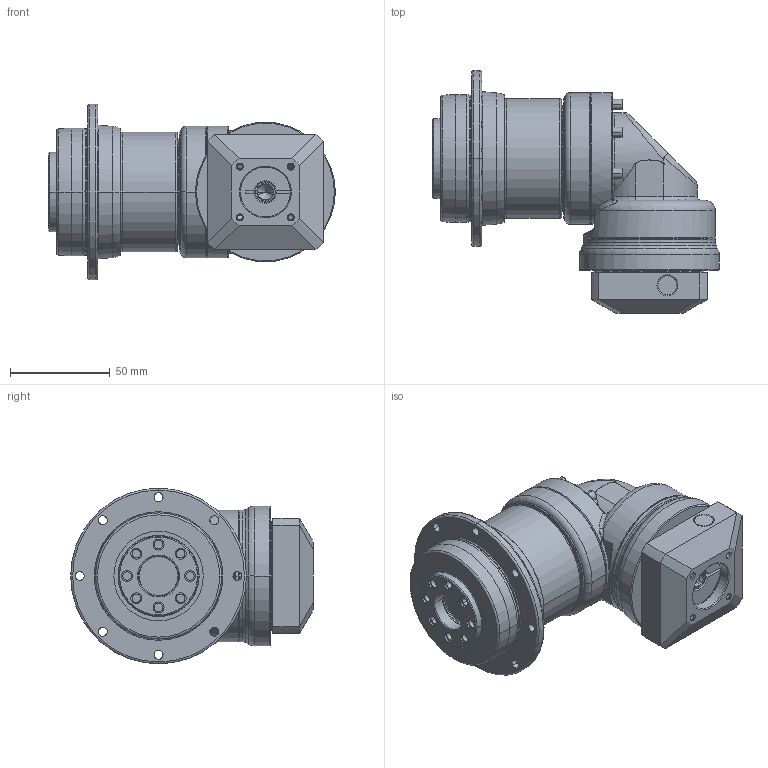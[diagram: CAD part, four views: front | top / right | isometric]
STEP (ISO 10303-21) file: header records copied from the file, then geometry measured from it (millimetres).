
FILE_DESCRIPTION((''),'2;1');
FILE_NAME('PDR064_2ST_8-P0411100101_ASM','2016-06-06T',('d01943'),(''),'PRO/ENGINEER BY PARAMETRIC TECHNOLOGY CORPORATION, 2008410','PRO/ENGINEER BY PARAMETRIC TECHNOLOGY CORPORATION, 2008410','');
FILE_SCHEMA(('CONFIG_CONTROL_DESIGN'));
Length unit declared in the file: millimetre
Products named in the file (10): P1355200001; P0367200001; P0275200001; P1349200001; P1017200001; P1350200001; P0411100101; P0503100005; P0713200001; PDR064_2ST_8-P0411100101_ASM
Assembly tree (9 placements, depth 2):
  PDR064_2ST_8-P0411100101_ASM
    P1355200001
    P0367200001
    P0275200001
    P1349200001
    P1017200001
    P1350200001
    P0411100101
    P0503100005
    P0713200001
Bounding box: 143.5 x 121.5 x 88 mm (x, y, z)
Volume: 454612.1 mm3; surface area: 107747.4 mm2
Topology: 9 solids, 9 shells, 556 faces, 1268 edges, 750 vertices
Faces by surface type: cylinder 194, cone 152, plane 92, torus 88, bspline 30
Entity records: 18497 total; most frequent: CARTESIAN_POINT 5711, DIRECTION 2848, ORIENTED_EDGE 2480, EDGE_CURVE 1240, AXIS2_PLACEMENT_3D 1221, VERTEX_POINT 750, CIRCLE 676, EDGE_LOOP 656
